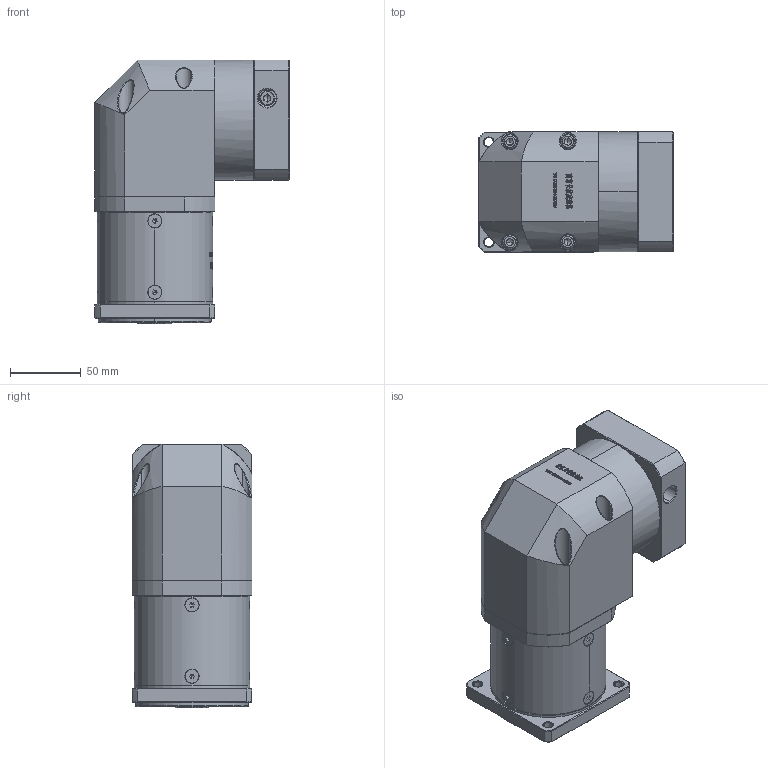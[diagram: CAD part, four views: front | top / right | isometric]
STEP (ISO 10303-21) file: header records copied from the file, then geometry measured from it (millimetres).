
FILE_DESCRIPTION (( 'STEP AP214' ), '1' );
FILE_NAME ('ZF80-K15-L2-14-73-69.6X69.6-M6.step', '2022-05-08T12:03:39', ( '' ), ( 'Microsoft' ), 'SwSTEP 2.0', 'SolidWorks 2016', '' );
FILE_SCHEMA (( 'AUTOMOTIVE_DESIGN' ));
Length unit declared in the file: millimetre
Products named in the file (1): ZF80-K15-L2-14-73-69.6X69.6-M6
Bounding box: 137.6 x 85 x 187 mm (x, y, z)
Volume: 1338525.1 mm3; surface area: 138973.7 mm2
Topology: 13 solids, 13 shells, 3009 faces, 7910 edges, 5048 vertices
Faces by surface type: plane 1612, bspline 614, cylinder 416, cone 353, torus 14
Entity records: 158708 total; most frequent: CARTESIAN_POINT 56895, ORIENTED_EDGE 15732, DIRECTION 11864, EDGE_CURVE 7866, VERTEX_POINT 5048, VECTOR 4924, LINE 4924, AXIS2_PLACEMENT_3D 3470
